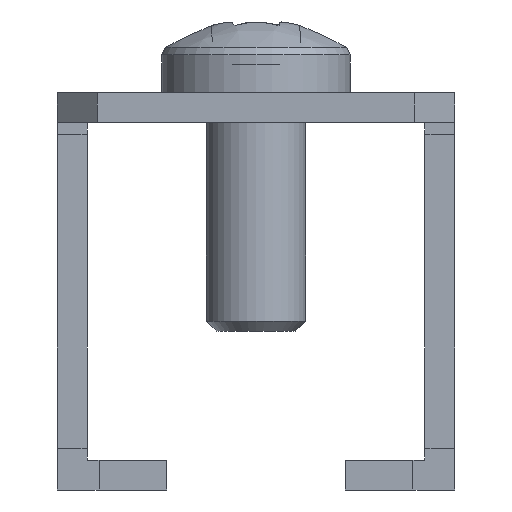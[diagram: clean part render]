
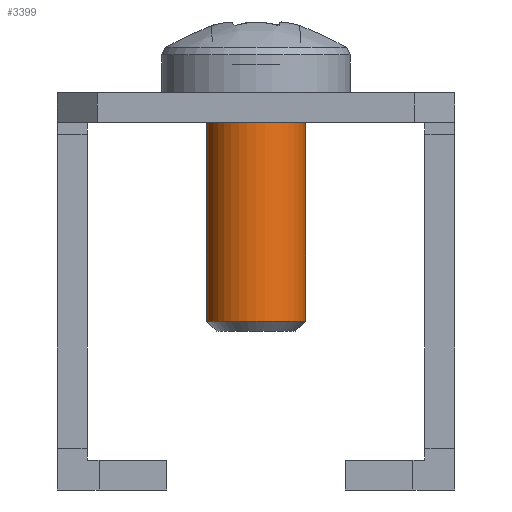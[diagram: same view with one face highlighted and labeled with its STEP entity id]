
A CAD part, left-side view. The second image highlights one B-rep face of the part: STEP entity #3399.
In plain terms, the highlighted cylindrical face has radius 2.5 mm (diameter 5 mm), a full revolution.
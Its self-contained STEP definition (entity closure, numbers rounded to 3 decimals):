
#3399 = ADVANCED_FACE('',(#3400),#3435,.T.);
#3400 = FACE_BOUND('',#3401,.T.);
#3401 = EDGE_LOOP('',(#3402,#3413,#3420,#3427,#3428));
#3402 = ORIENTED_EDGE('',*,*,#3403,.T.);
#3403 = EDGE_CURVE('',#3404,#3406,#3408,.T.);
#3404 = VERTEX_POINT('',#3405);
#3405 = CARTESIAN_POINT('',(15.2,0.,-2.5));
#3406 = VERTEX_POINT('',#3407);
#3407 = CARTESIAN_POINT('',(15.2,0.,2.5));
#3408 = CIRCLE('',#3409,2.5);
#3409 = AXIS2_PLACEMENT_3D('',#3410,#3411,#3412);
#3410 = CARTESIAN_POINT('',(15.2,0.,0.));
#3411 = DIRECTION('',(-1.,-0.,-0.));
#3412 = DIRECTION('',(0.,0.,-1.));
#3413 = ORIENTED_EDGE('',*,*,#3414,.T.);
#3414 = EDGE_CURVE('',#3406,#3415,#3417,.T.);
#3415 = VERTEX_POINT('',#3416);
#3416 = CARTESIAN_POINT('',(3.9,0.,2.5));
#3417 = B_SPLINE_CURVE_WITH_KNOTS('',1,(#3418,#3419),.UNSPECIFIED.,.F.,
  .F.,(2,2),(-40.6,-29.3),.PIECEWISE_BEZIER_KNOTS.);
#3418 = CARTESIAN_POINT('',(15.2,0.,2.5));
#3419 = CARTESIAN_POINT('',(3.9,0.,2.5));
#3420 = ORIENTED_EDGE('',*,*,#3421,.T.);
#3421 = EDGE_CURVE('',#3415,#3415,#3422,.T.);
#3422 = CIRCLE('',#3423,2.5);
#3423 = AXIS2_PLACEMENT_3D('',#3424,#3425,#3426);
#3424 = CARTESIAN_POINT('',(3.9,0.,0.));
#3425 = DIRECTION('',(1.,0.,-0.));
#3426 = DIRECTION('',(0.,0.,1.));
#3427 = ORIENTED_EDGE('',*,*,#3414,.F.);
#3428 = ORIENTED_EDGE('',*,*,#3429,.T.);
#3429 = EDGE_CURVE('',#3406,#3404,#3430,.T.);
#3430 = CIRCLE('',#3431,2.5);
#3431 = AXIS2_PLACEMENT_3D('',#3432,#3433,#3434);
#3432 = CARTESIAN_POINT('',(15.2,0.,0.));
#3433 = DIRECTION('',(-1.,-0.,-0.));
#3434 = DIRECTION('',(0.,0.,-1.));
#3435 = CYLINDRICAL_SURFACE('',#3436,2.5);
#3436 = AXIS2_PLACEMENT_3D('',#3437,#3438,#3439);
#3437 = CARTESIAN_POINT('',(-25.4,0.,0.));
#3438 = DIRECTION('',(-1.,-0.,-0.));
#3439 = DIRECTION('',(-0.,0.,1.));
